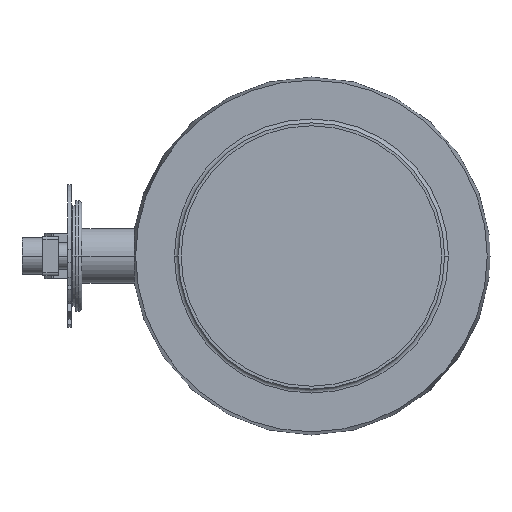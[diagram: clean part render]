
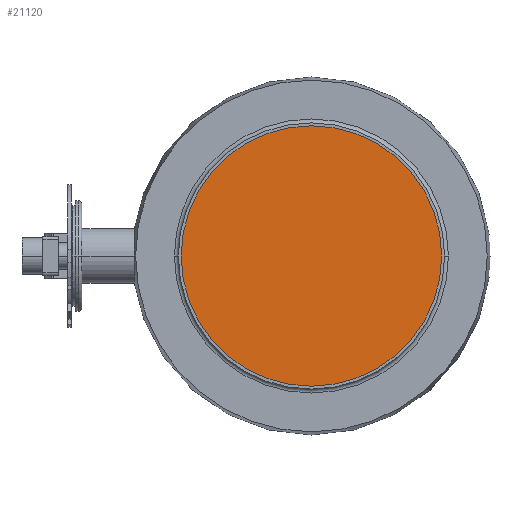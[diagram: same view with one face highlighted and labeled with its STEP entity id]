
A CAD part, left-side view. The second image highlights one B-rep face of the part: STEP entity #21120.
In plain terms, the highlighted planar face has unit normal (-1, 0, 0) as drawn and (1, 0, 0) by its records, which use the part's own axes.
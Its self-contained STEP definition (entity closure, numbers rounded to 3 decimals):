
#20720=CARTESIAN_POINT('',(72.273,-160.502,
0.));
#20730=VERTEX_POINT('',#20720);
#20810=CARTESIAN_POINT('',(72.273,39.498,
0.));
#20820=VERTEX_POINT('',#20810);
#20850=CARTESIAN_POINT('',(72.273,-60.502,
0.));
#20860=DIRECTION('',(-1.,0.,0.));
#20870=DIRECTION('',(0.,-1.,0.));
#20880=AXIS2_PLACEMENT_3D('',#20850,#20860,#20870);
#20890=CIRCLE('',#20880,100.);
#20900=EDGE_CURVE('',#20730,#20820,#20890,.T.);
#21020=CARTESIAN_POINT('',(72.273,66.998,127.5));
#21030=DIRECTION('',(-1.,0.,0.));
#21040=DIRECTION('',(0.,-1.,0.));
#21050=AXIS2_PLACEMENT_3D('',#21020,#21030,#21040);
#21060=PLANE('',#21050);
#21070=EDGE_CURVE('',#20820,#20730,#20890,.T.);
#21080=ORIENTED_EDGE('',*,*,#21070,.F.);
#21090=ORIENTED_EDGE('',*,*,#20900,.F.);
#21100=EDGE_LOOP('',(#21090,#21080));
#21110=FACE_OUTER_BOUND('',#21100,.T.);
#21120=ADVANCED_FACE('',(#21110),#21060,.F.);
